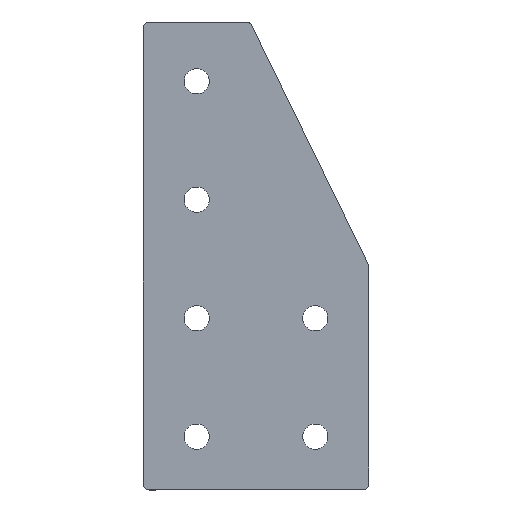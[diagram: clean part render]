
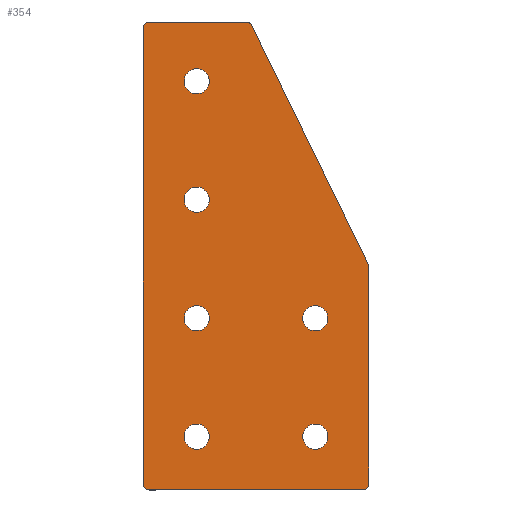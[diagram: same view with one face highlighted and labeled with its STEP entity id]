
A CAD part, top view. The second image highlights one B-rep face of the part: STEP entity #354.
In plain terms, the highlighted planar face has unit normal (0, 0, 1).
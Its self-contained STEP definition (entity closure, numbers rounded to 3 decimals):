
#15=FACE_BOUND('',#64,.T.);
#16=FACE_BOUND('',#65,.T.);
#17=FACE_BOUND('',#66,.T.);
#18=FACE_BOUND('',#67,.T.);
#19=FACE_BOUND('',#68,.T.);
#20=FACE_BOUND('',#69,.T.);
#32=PLANE('',#404);
#45=FACE_OUTER_BOUND('',#63,.T.);
#63=EDGE_LOOP('',(#280,#281,#282,#283,#284,#285,#286,#287,#288,#289));
#64=EDGE_LOOP('',(#290));
#65=EDGE_LOOP('',(#291));
#66=EDGE_LOOP('',(#292));
#67=EDGE_LOOP('',(#293));
#68=EDGE_LOOP('',(#294));
#69=EDGE_LOOP('',(#295));
#88=LINE('',#569,#114);
#94=LINE('',#582,#120);
#96=LINE('',#587,#122);
#100=LINE('',#596,#126);
#104=LINE('',#605,#130);
#114=VECTOR('',#467,1000.);
#120=VECTOR('',#475,1000.);
#122=VECTOR('',#479,1000.);
#126=VECTOR('',#485,1000.);
#130=VECTOR('',#491,1000.);
#135=CIRCLE('',#383,4.25);
#137=CIRCLE('',#386,4.25);
#139=CIRCLE('',#389,4.25);
#141=CIRCLE('',#392,4.25);
#143=CIRCLE('',#395,4.25);
#145=CIRCLE('',#398,4.25);
#146=CIRCLE('',#405,2.);
#147=CIRCLE('',#406,2.);
#148=CIRCLE('',#407,2.);
#149=CIRCLE('',#408,2.);
#150=CIRCLE('',#409,2.);
#157=VERTEX_POINT('',#533);
#159=VERTEX_POINT('',#539);
#161=VERTEX_POINT('',#545);
#163=VERTEX_POINT('',#551);
#165=VERTEX_POINT('',#557);
#167=VERTEX_POINT('',#563);
#168=VERTEX_POINT('',#567);
#169=VERTEX_POINT('',#568);
#174=VERTEX_POINT('',#579);
#175=VERTEX_POINT('',#581);
#176=VERTEX_POINT('',#585);
#177=VERTEX_POINT('',#586);
#180=VERTEX_POINT('',#594);
#181=VERTEX_POINT('',#595);
#184=VERTEX_POINT('',#603);
#185=VERTEX_POINT('',#604);
#190=EDGE_CURVE('',#157,#157,#135,.T.);
#193=EDGE_CURVE('',#159,#159,#137,.T.);
#196=EDGE_CURVE('',#161,#161,#139,.T.);
#199=EDGE_CURVE('',#163,#163,#141,.T.);
#202=EDGE_CURVE('',#165,#165,#143,.T.);
#205=EDGE_CURVE('',#167,#167,#145,.T.);
#206=EDGE_CURVE('',#168,#169,#88,.T.);
#212=EDGE_CURVE('',#175,#174,#94,.T.);
#214=EDGE_CURVE('',#176,#177,#96,.T.);
#218=EDGE_CURVE('',#180,#181,#100,.T.);
#222=EDGE_CURVE('',#184,#185,#104,.T.);
#226=EDGE_CURVE('',#174,#176,#146,.T.);
#227=EDGE_CURVE('',#177,#180,#147,.T.);
#228=EDGE_CURVE('',#181,#184,#148,.T.);
#229=EDGE_CURVE('',#185,#168,#149,.T.);
#230=EDGE_CURVE('',#169,#175,#150,.T.);
#280=ORIENTED_EDGE('',*,*,#212,.T.);
#281=ORIENTED_EDGE('',*,*,#226,.T.);
#282=ORIENTED_EDGE('',*,*,#214,.T.);
#283=ORIENTED_EDGE('',*,*,#227,.T.);
#284=ORIENTED_EDGE('',*,*,#218,.T.);
#285=ORIENTED_EDGE('',*,*,#228,.T.);
#286=ORIENTED_EDGE('',*,*,#222,.T.);
#287=ORIENTED_EDGE('',*,*,#229,.T.);
#288=ORIENTED_EDGE('',*,*,#206,.T.);
#289=ORIENTED_EDGE('',*,*,#230,.T.);
#290=ORIENTED_EDGE('',*,*,#190,.F.);
#291=ORIENTED_EDGE('',*,*,#193,.F.);
#292=ORIENTED_EDGE('',*,*,#196,.F.);
#293=ORIENTED_EDGE('',*,*,#199,.F.);
#294=ORIENTED_EDGE('',*,*,#202,.F.);
#295=ORIENTED_EDGE('',*,*,#205,.F.);
#354=ADVANCED_FACE('',(#45,#15,#16,#17,#18,#19,#20),#32,.T.);
#383=AXIS2_PLACEMENT_3D('',#535,#428,#429);
#386=AXIS2_PLACEMENT_3D('',#541,#435,#436);
#389=AXIS2_PLACEMENT_3D('',#547,#442,#443);
#392=AXIS2_PLACEMENT_3D('',#553,#449,#450);
#395=AXIS2_PLACEMENT_3D('',#559,#456,#457);
#398=AXIS2_PLACEMENT_3D('',#565,#463,#464);
#404=AXIS2_PLACEMENT_3D('',#611,#495,#496);
#405=AXIS2_PLACEMENT_3D('',#612,#497,#498);
#406=AXIS2_PLACEMENT_3D('',#613,#499,#500);
#407=AXIS2_PLACEMENT_3D('',#614,#501,#502);
#408=AXIS2_PLACEMENT_3D('',#615,#503,#504);
#409=AXIS2_PLACEMENT_3D('',#616,#505,#506);
#428=DIRECTION('center_axis',(0.,0.,1.));
#429=DIRECTION('ref_axis',(1.,0.,0.));
#435=DIRECTION('center_axis',(0.,0.,1.));
#436=DIRECTION('ref_axis',(1.,0.,0.));
#442=DIRECTION('center_axis',(0.,0.,1.));
#443=DIRECTION('ref_axis',(1.,0.,0.));
#449=DIRECTION('center_axis',(0.,0.,1.));
#450=DIRECTION('ref_axis',(1.,0.,0.));
#456=DIRECTION('center_axis',(0.,0.,1.));
#457=DIRECTION('ref_axis',(1.,0.,0.));
#463=DIRECTION('center_axis',(0.,0.,1.));
#464=DIRECTION('ref_axis',(1.,0.,0.));
#467=DIRECTION('',(-1.,0.,0.));
#475=DIRECTION('',(0.,-1.,0.));
#479=DIRECTION('',(1.,0.,0.));
#485=DIRECTION('',(0.,1.,0.));
#491=DIRECTION('',(-0.438,0.899,0.));
#495=DIRECTION('center_axis',(0.,0.,1.));
#496=DIRECTION('ref_axis',(1.,0.,0.));
#497=DIRECTION('center_axis',(0.,0.,1.));
#498=DIRECTION('ref_axis',(1.,0.,0.));
#499=DIRECTION('center_axis',(0.,0.,1.));
#500=DIRECTION('ref_axis',(1.,0.,0.));
#501=DIRECTION('center_axis',(0.,0.,1.));
#502=DIRECTION('ref_axis',(1.,0.,0.));
#503=DIRECTION('center_axis',(0.,0.,1.));
#504=DIRECTION('ref_axis',(1.,0.,0.));
#505=DIRECTION('center_axis',(0.,0.,1.));
#506=DIRECTION('ref_axis',(1.,0.,0.));
#533=CARTESIAN_POINT('',(-2.861,30.425,3.));
#535=CARTESIAN_POINT('Origin',(1.389,30.425,3.));
#539=CARTESIAN_POINT('',(-2.861,70.425,3.));
#541=CARTESIAN_POINT('Origin',(1.389,70.425,3.));
#545=CARTESIAN_POINT('',(37.139,-49.575,3.));
#547=CARTESIAN_POINT('Origin',(41.389,-49.575,3.));
#551=CARTESIAN_POINT('',(-2.861,-49.575,3.));
#553=CARTESIAN_POINT('Origin',(1.389,-49.575,3.));
#557=CARTESIAN_POINT('',(37.139,-9.575,3.));
#559=CARTESIAN_POINT('Origin',(41.389,-9.575,3.));
#563=CARTESIAN_POINT('',(-2.861,-9.575,3.));
#565=CARTESIAN_POINT('Origin',(1.389,-9.575,3.));
#567=CARTESIAN_POINT('',(18.14,90.425,3.));
#568=CARTESIAN_POINT('',(-14.611,90.425,3.));
#569=CARTESIAN_POINT('',(19.389,90.425,3.));
#579=CARTESIAN_POINT('',(-16.611,-65.575,3.));
#581=CARTESIAN_POINT('',(-16.611,88.425,3.));
#582=CARTESIAN_POINT('',(-16.611,90.425,3.));
#585=CARTESIAN_POINT('',(-14.611,-67.575,3.));
#586=CARTESIAN_POINT('',(57.389,-67.575,3.));
#587=CARTESIAN_POINT('',(-16.611,-67.575,3.));
#594=CARTESIAN_POINT('',(59.389,-65.575,3.));
#595=CARTESIAN_POINT('',(59.389,7.963,3.));
#596=CARTESIAN_POINT('',(59.389,-67.575,3.));
#603=CARTESIAN_POINT('',(59.187,8.84,3.));
#604=CARTESIAN_POINT('',(19.937,89.302,3.));
#605=CARTESIAN_POINT('',(59.389,8.425,3.));
#611=CARTESIAN_POINT('Origin',(0.,0.,3.));
#612=CARTESIAN_POINT('Origin',(-14.611,-65.575,3.));
#613=CARTESIAN_POINT('Origin',(57.389,-65.575,3.));
#614=CARTESIAN_POINT('Origin',(57.389,7.963,3.));
#615=CARTESIAN_POINT('Origin',(18.14,88.425,3.));
#616=CARTESIAN_POINT('Origin',(-14.611,88.425,3.));
